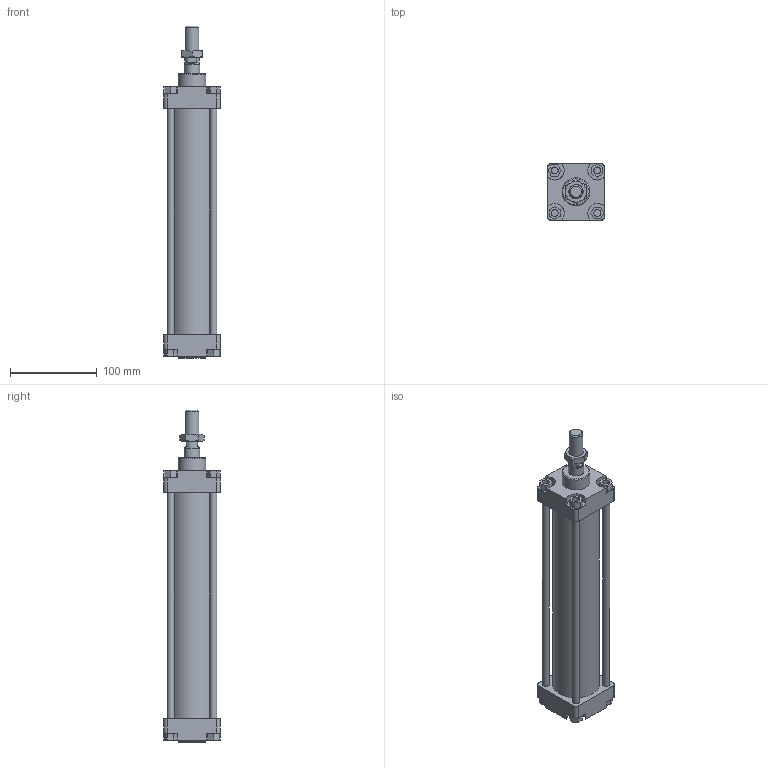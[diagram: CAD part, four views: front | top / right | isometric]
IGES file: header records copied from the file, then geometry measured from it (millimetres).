
Global section: file name: 1303_050_0200_01A; native system: Autodesk Inventor 2014; preprocessor: unknown; author: A. Manieri; date: 20161123.150235; units: millimetre
Bounding box: 65 x 65 x 382 mm (x, y, z)
Volume: 513539.1 mm3; surface area: 186551.7 mm2
Topology: 9 solids, 9 shells, 163 faces, 401 edges, 268 vertices
Faces by surface type: bspline 163
